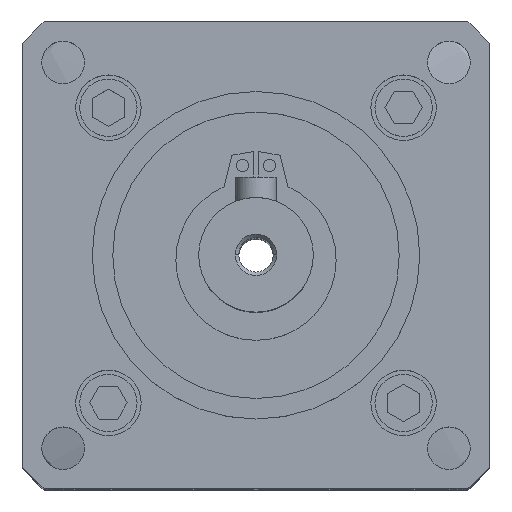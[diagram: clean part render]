
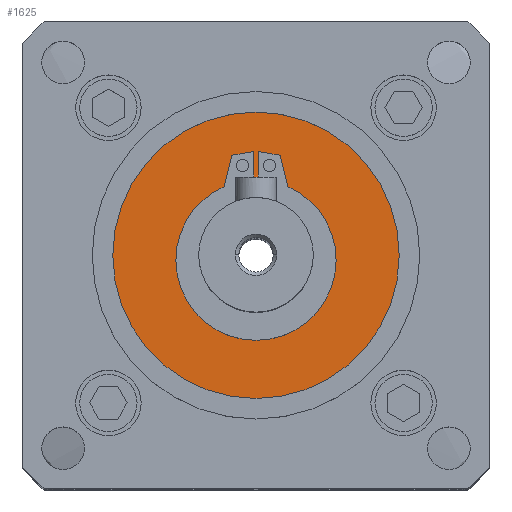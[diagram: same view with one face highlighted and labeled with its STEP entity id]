
A CAD part, top view. The second image highlights one B-rep face of the part: STEP entity #1625.
In plain terms, the highlighted planar face has unit normal (0, 0, 1).
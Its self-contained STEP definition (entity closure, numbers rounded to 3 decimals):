
#16 = CARTESIAN_POINT ( 'NONE',  ( 0.3, 12.685, 96. ) ) ;
#154 = AXIS2_PLACEMENT_3D ( 'NONE', #3078, #8170, #4997 ) ;
#228 = CIRCLE ( 'NONE', #7823, 17.5 ) ;
#307 = EDGE_CURVE ( 'NONE', #1801, #6402, #382, .T. ) ;
#382 = LINE ( 'NONE', #2413, #5600 ) ;
#399 = CARTESIAN_POINT ( 'NONE',  ( 0., -0.6, 96. ) ) ;
#412 = VECTOR ( 'NONE', #4021, 1000. ) ;
#463 = ORIENTED_EDGE ( 'NONE', *, *, #6737, .F. ) ;
#506 = VERTEX_POINT ( 'NONE', #1964 ) ;
#513 = FACE_BOUND ( 'NONE', #5707, .T. ) ;
#627 = EDGE_CURVE ( 'NONE', #6375, #5417, #5928, .T. ) ;
#634 = AXIS2_PLACEMENT_3D ( 'NONE', #6332, #3689, #6245 ) ;
#685 = CARTESIAN_POINT ( 'NONE',  ( 0.3, 9.185, 96. ) ) ;
#716 = AXIS2_PLACEMENT_3D ( 'NONE', #4250, #4967, #5516 ) ;
#785 = DIRECTION ( 'NONE',  ( 1., 0., 0. ) ) ;
#851 = DIRECTION ( 'NONE',  ( -0.236, 0.972, 0. ) ) ;
#859 = EDGE_LOOP ( 'NONE', ( #5651, #5062 ) ) ;
#923 = ORIENTED_EDGE ( 'NONE', *, *, #307, .F. ) ;
#969 = EDGE_CURVE ( 'NONE', #1480, #1801, #1484, .T. ) ;
#980 = DIRECTION ( 'NONE',  ( 0., 0., 1. ) ) ;
#1095 = VECTOR ( 'NONE', #5094, 1000. ) ;
#1156 = VERTEX_POINT ( 'NONE', #2273 ) ;
#1254 = VERTEX_POINT ( 'NONE', #4459 ) ;
#1320 = DIRECTION ( 'NONE',  ( 0., 0., 1. ) ) ;
#1370 = CARTESIAN_POINT ( 'NONE',  ( 0.3, 12.685, 96. ) ) ;
#1480 = VERTEX_POINT ( 'NONE', #3269 ) ;
#1484 = LINE ( 'NONE', #5230, #412 ) ;
#1503 = ORIENTED_EDGE ( 'NONE', *, *, #2243, .F. ) ;
#1625 = ADVANCED_FACE ( 'NONE', ( #513, #4954 ), #6895, .F. ) ;
#1801 = VERTEX_POINT ( 'NONE', #4035 ) ;
#1948 = VECTOR ( 'NONE', #851, 1000. ) ;
#1950 = VERTEX_POINT ( 'NONE', #2455 ) ;
#1964 = CARTESIAN_POINT ( 'NONE',  ( 3.89, 8.378, 96. ) ) ;
#2116 = VERTEX_POINT ( 'NONE', #7120 ) ;
#2243 = EDGE_CURVE ( 'NONE', #5417, #5813, #2557, .T. ) ;
#2273 = CARTESIAN_POINT ( 'NONE',  ( -9.785, -0.6, 96. ) ) ;
#2413 = CARTESIAN_POINT ( 'NONE',  ( -0.3, 12.685, 96. ) ) ;
#2455 = CARTESIAN_POINT ( 'NONE',  ( 17.5, 0., 96. ) ) ;
#2557 = LINE ( 'NONE', #685, #1095 ) ;
#2726 = DIRECTION ( 'NONE',  ( -0.236, -0.972, 0. ) ) ;
#2836 = CIRCLE ( 'NONE', #716, 17.5 ) ;
#2885 = CARTESIAN_POINT ( 'NONE',  ( 0., -0.6, 96. ) ) ;
#3074 = DIRECTION ( 'NONE',  ( -1., 0., 0. ) ) ;
#3078 = CARTESIAN_POINT ( 'NONE',  ( 0., 0., 96. ) ) ;
#3269 = CARTESIAN_POINT ( 'NONE',  ( -0.3, 9.185, 96. ) ) ;
#3357 = ORIENTED_EDGE ( 'NONE', *, *, #4213, .F. ) ;
#3386 = CARTESIAN_POINT ( 'NONE',  ( -2.959, 12.216, 96. ) ) ;
#3402 = ORIENTED_EDGE ( 'NONE', *, *, #7999, .F. ) ;
#3500 = ORIENTED_EDGE ( 'NONE', *, *, #969, .F. ) ;
#3556 = DIRECTION ( 'NONE',  ( 0., 0., 1. ) ) ;
#3689 = DIRECTION ( 'NONE',  ( 0., 0., 1. ) ) ;
#4021 = DIRECTION ( 'NONE',  ( 0., 1., 0. ) ) ;
#4035 = CARTESIAN_POINT ( 'NONE',  ( -0.3, 12.685, 96. ) ) ;
#4065 = EDGE_CURVE ( 'NONE', #1950, #1254, #2836, .T. ) ;
#4213 = EDGE_CURVE ( 'NONE', #2116, #1156, #5235, .T. ) ;
#4250 = CARTESIAN_POINT ( 'NONE',  ( 0., 0., 96. ) ) ;
#4331 = CIRCLE ( 'NONE', #634, 9.785 ) ;
#4335 = CIRCLE ( 'NONE', #5685, 9.785 ) ;
#4459 = CARTESIAN_POINT ( 'NONE',  ( -17.5, 0., 96. ) ) ;
#4563 = CARTESIAN_POINT ( 'NONE',  ( 0., 0., 96. ) ) ;
#4579 = ORIENTED_EDGE ( 'NONE', *, *, #5596, .F. ) ;
#4596 = LINE ( 'NONE', #7276, #1948 ) ;
#4867 = DIRECTION ( 'NONE',  ( -0.985, -0.174, 0. ) ) ;
#4949 = CARTESIAN_POINT ( 'NONE',  ( -0.3, 9.185, 96. ) ) ;
#4954 = FACE_OUTER_BOUND ( 'NONE', #859, .T. ) ;
#4967 = DIRECTION ( 'NONE',  ( 0., 0., 1. ) ) ;
#4997 = DIRECTION ( 'NONE',  ( -1., 0., 0. ) ) ;
#5043 = EDGE_CURVE ( 'NONE', #5813, #1480, #7555, .T. ) ;
#5062 = ORIENTED_EDGE ( 'NONE', *, *, #4065, .T. ) ;
#5094 = DIRECTION ( 'NONE',  ( 0., -1., 0. ) ) ;
#5230 = CARTESIAN_POINT ( 'NONE',  ( -0.3, 9.185, 96. ) ) ;
#5235 = CIRCLE ( 'NONE', #6310, 9.785 ) ;
#5244 = CARTESIAN_POINT ( 'NONE',  ( 9.785, -0.6, 96. ) ) ;
#5385 = DIRECTION ( 'NONE',  ( 1., 0., 0. ) ) ;
#5417 = VERTEX_POINT ( 'NONE', #16 ) ;
#5516 = DIRECTION ( 'NONE',  ( 1., 0., 0. ) ) ;
#5596 = EDGE_CURVE ( 'NONE', #506, #6375, #4596, .T. ) ;
#5600 = VECTOR ( 'NONE', #4867, 1000. ) ;
#5651 = ORIENTED_EDGE ( 'NONE', *, *, #6740, .T. ) ;
#5685 = AXIS2_PLACEMENT_3D ( 'NONE', #2885, #980, #5385 ) ;
#5707 = EDGE_LOOP ( 'NONE', ( #3357, #7102, #923, #3500, #7184, #1503, #7948, #4579, #463, #3402 ) ) ;
#5813 = VERTEX_POINT ( 'NONE', #7654 ) ;
#5928 = LINE ( 'NONE', #1370, #6400 ) ;
#6245 = DIRECTION ( 'NONE',  ( 1., 0., 0. ) ) ;
#6310 = AXIS2_PLACEMENT_3D ( 'NONE', #399, #3556, #6788 ) ;
#6332 = CARTESIAN_POINT ( 'NONE',  ( 0., -0.6, 96. ) ) ;
#6375 = VERTEX_POINT ( 'NONE', #7470 ) ;
#6400 = VECTOR ( 'NONE', #6583, 1000. ) ;
#6402 = VERTEX_POINT ( 'NONE', #8125 ) ;
#6583 = DIRECTION ( 'NONE',  ( -0.985, 0.174, 0. ) ) ;
#6737 = EDGE_CURVE ( 'NONE', #7467, #506, #4331, .T. ) ;
#6740 = EDGE_CURVE ( 'NONE', #1254, #1950, #228, .T. ) ;
#6788 = DIRECTION ( 'NONE',  ( 1., 0., 0. ) ) ;
#6887 = VECTOR ( 'NONE', #2726, 1000. ) ;
#6895 = PLANE ( 'NONE',  #154 ) ;
#7102 = ORIENTED_EDGE ( 'NONE', *, *, #7900, .F. ) ;
#7120 = CARTESIAN_POINT ( 'NONE',  ( -3.89, 8.378, 96. ) ) ;
#7184 = ORIENTED_EDGE ( 'NONE', *, *, #5043, .F. ) ;
#7260 = VECTOR ( 'NONE', #3074, 1000. ) ;
#7276 = CARTESIAN_POINT ( 'NONE',  ( 2.959, 12.216, 96. ) ) ;
#7467 = VERTEX_POINT ( 'NONE', #5244 ) ;
#7470 = CARTESIAN_POINT ( 'NONE',  ( 2.959, 12.216, 96. ) ) ;
#7555 = LINE ( 'NONE', #4949, #7260 ) ;
#7654 = CARTESIAN_POINT ( 'NONE',  ( 0.3, 9.185, 96. ) ) ;
#7823 = AXIS2_PLACEMENT_3D ( 'NONE', #4563, #1320, #785 ) ;
#7897 = LINE ( 'NONE', #3386, #6887 ) ;
#7900 = EDGE_CURVE ( 'NONE', #6402, #2116, #7897, .T. ) ;
#7948 = ORIENTED_EDGE ( 'NONE', *, *, #627, .F. ) ;
#7999 = EDGE_CURVE ( 'NONE', #1156, #7467, #4335, .T. ) ;
#8125 = CARTESIAN_POINT ( 'NONE',  ( -2.959, 12.216, 96. ) ) ;
#8170 = DIRECTION ( 'NONE',  ( 0., 0., -1. ) ) ;
